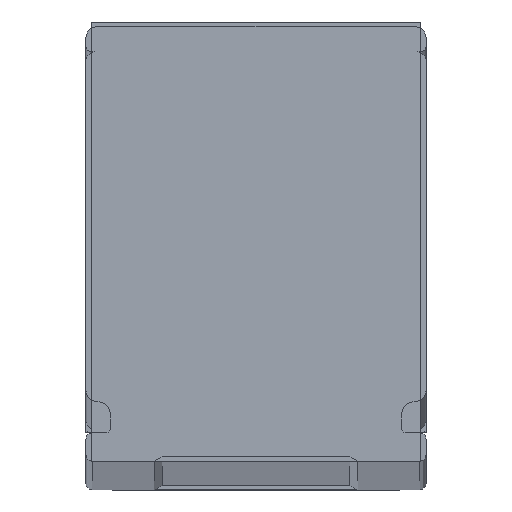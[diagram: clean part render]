
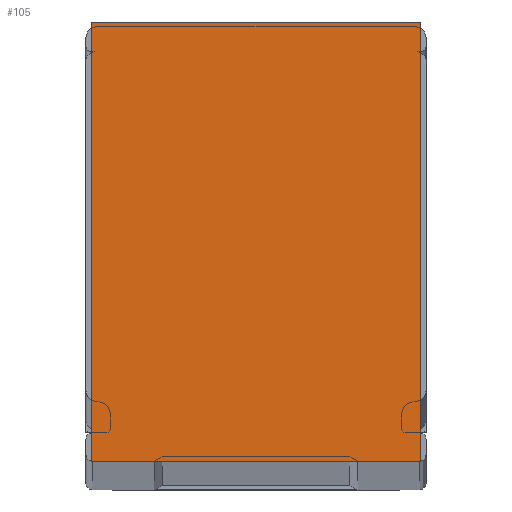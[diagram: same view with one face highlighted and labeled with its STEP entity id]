
A CAD part, top view. The second image highlights one B-rep face of the part: STEP entity #105.
In plain terms, the highlighted planar face has unit normal (0, 0, 1).
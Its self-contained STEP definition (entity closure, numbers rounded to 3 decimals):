
#105 = ADVANCED_FACE ( 'NONE', ( #1665 ), #1664, .T. ) ;
#106 = EDGE_LOOP ( 'NONE', ( #125, #120, #121, #124 ) ) ;
#108 = EDGE_CURVE ( 'NONE', #109, #143, #1659, .T. ) ;
#109 = VERTEX_POINT ( 'NONE', #1655 ) ;
#119 = EDGE_CURVE ( 'NONE', #158, #109, #1704, .T. ) ;
#120 = ORIENTED_EDGE ( 'NONE', *, *, #119, .T. ) ;
#121 = ORIENTED_EDGE ( 'NONE', *, *, #108, .T. ) ;
#124 = ORIENTED_EDGE ( 'NONE', *, *, #142, .T. ) ;
#125 = ORIENTED_EDGE ( 'NONE', *, *, #156, .T. ) ;
#142 = EDGE_CURVE ( 'NONE', #143, #157, #1731, .T. ) ;
#143 = VERTEX_POINT ( 'NONE', #1727 ) ;
#156 = EDGE_CURVE ( 'NONE', #157, #158, #1769, .T. ) ;
#157 = VERTEX_POINT ( 'NONE', #1765 ) ;
#158 = VERTEX_POINT ( 'NONE', #1764 ) ;
#1655 = CARTESIAN_POINT ( 'NONE',  ( 7.5, 0., 0. ) ) ;
#1656 = DIRECTION ( 'NONE',  ( 0., 1., 0. ) ) ;
#1657 = VECTOR ( 'NONE', #1656, 1000. ) ;
#1658 = CARTESIAN_POINT ( 'NONE',  ( 7.5, 20., 0. ) ) ;
#1659 = LINE ( 'NONE', #1658, #1657 ) ;
#1660 = DIRECTION ( 'NONE',  ( 1., 0., 0. ) ) ;
#1661 = DIRECTION ( 'NONE',  ( 0., 0., 1. ) ) ;
#1662 = CARTESIAN_POINT ( 'NONE',  ( -7.5, 0., 0. ) ) ;
#1663 = AXIS2_PLACEMENT_3D ( 'NONE', #1662, #1661, #1660 ) ;
#1664 = PLANE ( 'NONE',  #1663 ) ;
#1665 = FACE_OUTER_BOUND ( 'NONE', #106, .T. ) ;
#1701 = DIRECTION ( 'NONE',  ( 1., 0., 0. ) ) ;
#1702 = VECTOR ( 'NONE', #1701, 1000. ) ;
#1703 = CARTESIAN_POINT ( 'NONE',  ( -7.5, 0., 0. ) ) ;
#1704 = LINE ( 'NONE', #1703, #1702 ) ;
#1727 = CARTESIAN_POINT ( 'NONE',  ( 7.5, 20., 0. ) ) ;
#1728 = DIRECTION ( 'NONE',  ( -1., 0., 0. ) ) ;
#1729 = VECTOR ( 'NONE', #1728, 1000. ) ;
#1730 = CARTESIAN_POINT ( 'NONE',  ( -7.5, 20., 0. ) ) ;
#1731 = LINE ( 'NONE', #1730, #1729 ) ;
#1764 = CARTESIAN_POINT ( 'NONE',  ( -7.5, 0., 0. ) ) ;
#1765 = CARTESIAN_POINT ( 'NONE',  ( -7.5, 20., 0. ) ) ;
#1766 = DIRECTION ( 'NONE',  ( 0., -1., 0. ) ) ;
#1767 = VECTOR ( 'NONE', #1766, 1000. ) ;
#1768 = CARTESIAN_POINT ( 'NONE',  ( -7.5, 20., 0. ) ) ;
#1769 = LINE ( 'NONE', #1768, #1767 ) ;
